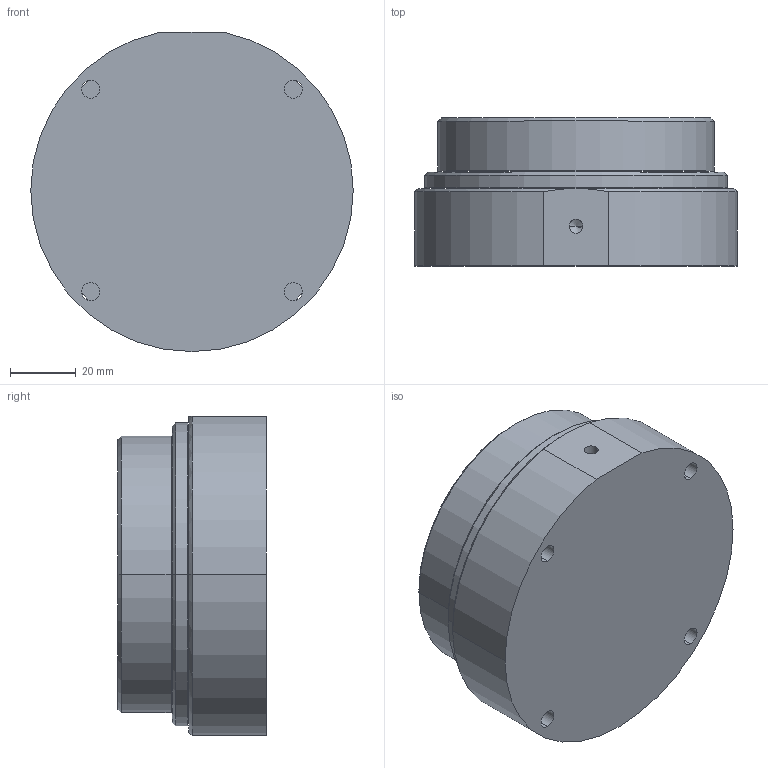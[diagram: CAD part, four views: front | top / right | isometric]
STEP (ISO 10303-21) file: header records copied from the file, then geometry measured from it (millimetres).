
FILE_DESCRIPTION (( 'STEP AP203' ), '1' );
FILE_NAME ('PVXM300R-15.STEP', '2016-01-26T04:31:51', ( '' ), ( '' ), 'SwSTEP 2.0', 'SolidWorks 2013', '' );
FILE_SCHEMA (( 'CONFIG_CONTROL_DESIGN' ));
Length unit declared in the file: millimetre
Products named in the file (1): PVXM300R-15
Bounding box: 98 x 45 x 97 mm (x, y, z)
Volume: 294307.9 mm3; surface area: 51816.1 mm2
Topology: 1 solids, 1 shells, 49 faces, 116 edges, 72 vertices
Faces by surface type: cylinder 29, plane 11, cone 9
Entity records: 1522 total; most frequent: DIRECTION 285, CARTESIAN_POINT 244, ORIENTED_EDGE 228, AXIS2_PLACEMENT_3D 123, EDGE_CURVE 114, CIRCLE 73, VERTEX_POINT 72, EDGE_LOOP 62
